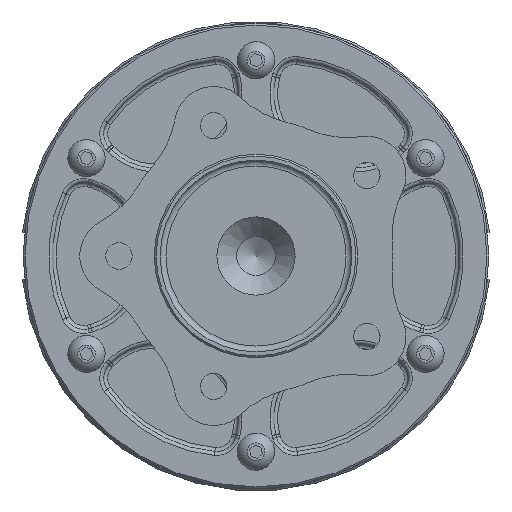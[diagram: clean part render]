
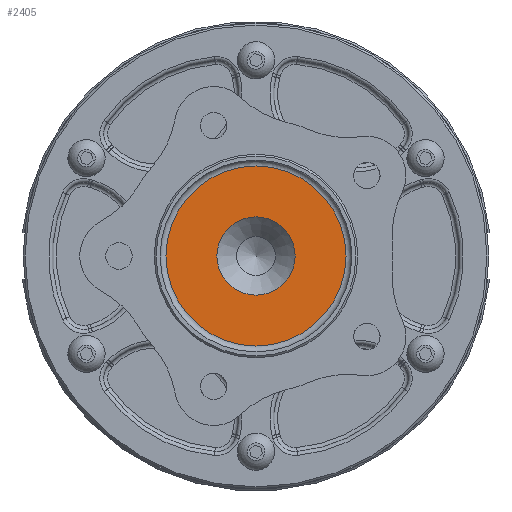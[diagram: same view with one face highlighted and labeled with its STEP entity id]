
A CAD part, left-side view. The second image highlights one B-rep face of the part: STEP entity #2405.
In plain terms, the highlighted planar face has unit normal (-1, 0, 0).
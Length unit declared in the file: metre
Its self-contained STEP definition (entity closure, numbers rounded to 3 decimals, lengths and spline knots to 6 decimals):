
#2405=ADVANCED_FACE('',(#5070,#5071),#5072,.T.);
#5070=FACE_OUTER_BOUND('',#8395,.T.);
#5071=FACE_BOUND('',#8396,.T.);
#5072=PLANE('',#8397);
#8395=EDGE_LOOP('',(#13596));
#8396=EDGE_LOOP('',(#13597));
#8397=AXIS2_PLACEMENT_3D('',#13598,#13599,#13600);
#13596=ORIENTED_EDGE('',*,*,#18732,.T.);
#13597=ORIENTED_EDGE('',*,*,#18733,.T.);
#13598=CARTESIAN_POINT('',(-0.036906,-0.002279,0.));
#13599=DIRECTION('',(-1.0,0.,0.0));
#13600=DIRECTION('',(0.,-1.0,0.0));
#18732=EDGE_CURVE('',#22487,#22487,#22488,.T.);
#18733=EDGE_CURVE('',#22489,#22489,#22490,.F.);
#22487=VERTEX_POINT('',#28666);
#22488=CIRCLE('',#28667,0.023);
#22489=VERTEX_POINT('',#28668);
#22490=CIRCLE('',#28669,0.01);
#28666=CARTESIAN_POINT('',(-0.036906,-0.025279,0.));
#28667=AXIS2_PLACEMENT_3D('',#33171,#33172,#33173);
#28668=CARTESIAN_POINT('',(-0.036906,-0.012279,0.));
#28669=AXIS2_PLACEMENT_3D('',#33174,#33175,#33176);
#33171=CARTESIAN_POINT('',(-0.036906,-0.002279,0.));
#33172=DIRECTION('',(-1.0,0.,0.0));
#33173=DIRECTION('',(0.,-1.0,0.0));
#33174=CARTESIAN_POINT('',(-0.036906,-0.002279,0.));
#33175=DIRECTION('',(-1.0,0.,0.0));
#33176=DIRECTION('',(0.,-1.0,0.0));
